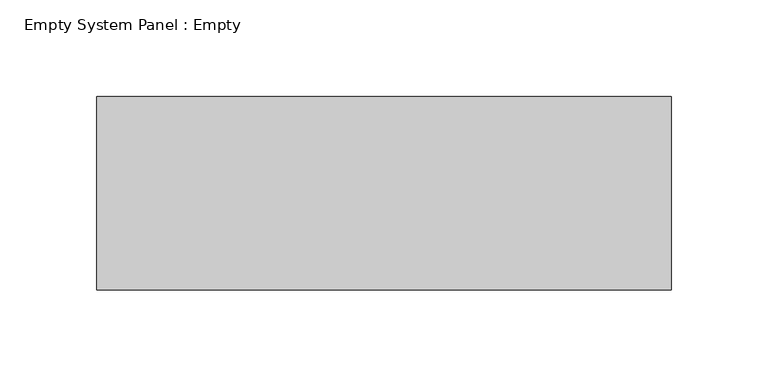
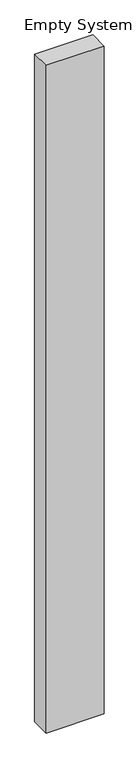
"""IFC4 building model written with IfcOpenShell, lengths in millimetres: plate geometry, Empty System Panel : Empty."""

from ifc_helpers import new_model, si_unit, origin, origin_with_axes, place, context, project, spatial, polyline, outline, extrude, source, transform, mapped, element, save


def empty_system_panel_empty_0fe92df0(model_context):
    return source(origin(), model_context, "Body", "SweptSolid", [
        extrude(outline(polyline([(148.5, -50.0), (-148.5, -50.0), (-148.5, 50.0), (148.5, 50.0), (148.5, -50.0)])), origin_with_axes(), (0.0, 0.0, 1.0), 3600.0),
    ])


if __name__ == "__main__":
    model = new_model("IFC4")
    model_context = context("Model", 3, world=origin())
    ifc_project = project(units=[si_unit("LENGTHUNIT", "METRE", prefix="MILLI")], contexts=[model_context])
    site = spatial("IfcSite", under=ifc_project)
    building = spatial("IfcBuilding", under=site)
    placement = place(None, origin())
    empty_system_panel_empty_shape = empty_system_panel_empty_0fe92df0(model_context)
    element("IfcPlate", 1, ObjectType="Empty System Panel : Empty", at=placement, inside=building, context=model_context, shape_type="MappedRepresentation", body=[
        mapped(empty_system_panel_empty_shape, transform((0.0, 0.0, 0.0), x_axis=(1.0, 0.0, 0.0), y_axis=(0.0, 1.0, 0.0), z_axis=(0.0, 0.0, 1.0))),
    ])
    save(model, "model.ifc")
